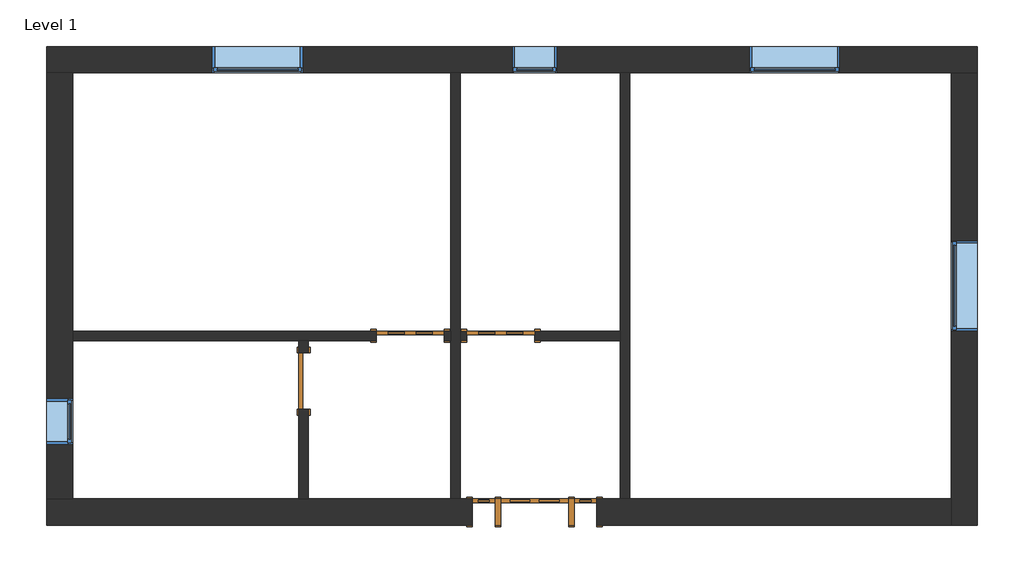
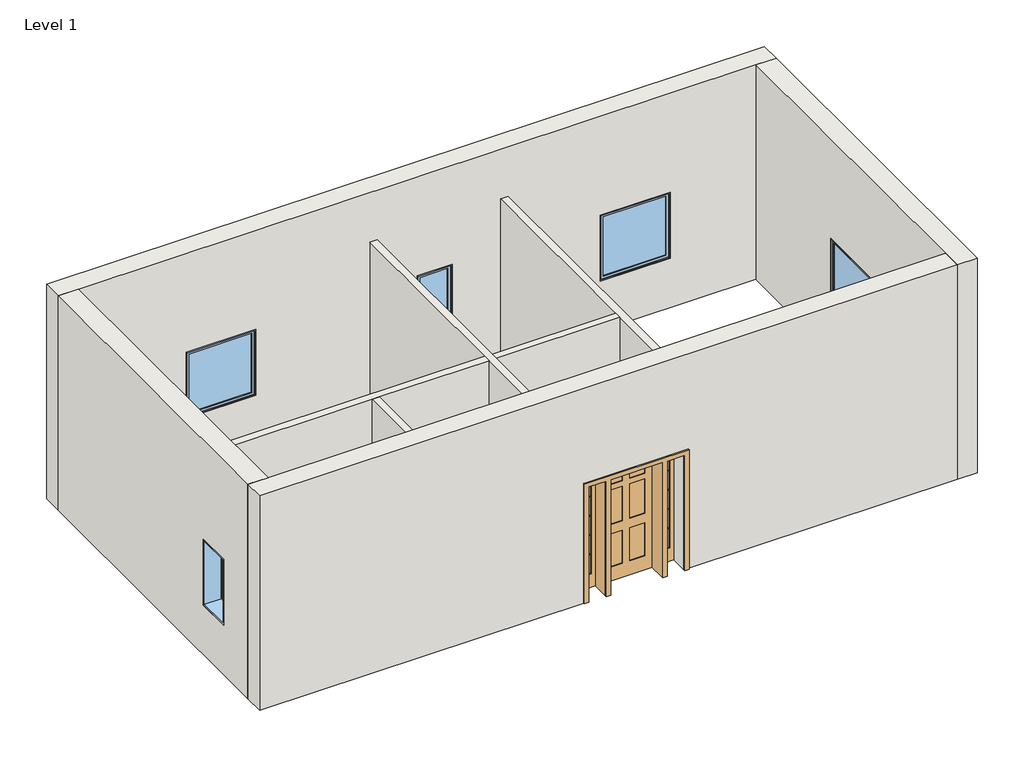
# One storey: 9 walls, 5 windows, 4 doors.
"""IFC4 building model written with IfcOpenShell, lengths in millimetres."""

import ifcopenshell
import ifcopenshell.guid

model = None  # the IFC model being written
_history = None  # IfcOwnerHistory: only IFC2X3 demands one
_inside = {}  # id of a spatial element -> (the spatial element, [elements in it])
_under = {}  # id of a project, library or spatial element -> (it, [spatial elements below it])
_declared = {}  # id of a project -> (the project, [libraries it declares])
_typed = {}  # id of a type object -> (the type object, [elements of that type])
_made_of = {}  # id of a material, layer set ... -> (it, [elements and type objects made of it])


def new_model(schema):
    """Start an empty IFC model of exactly this schema.

    Asked for "IFC4X3", IfcOpenShell would pick the latest addendum, in which some entities
    have other attributes; the version numbers below select the first issue.
    IFC2X3 requires an IfcOwnerHistory on every rooted entity: one is made here for all.
    """
    global model, _history
    if schema == "IFC4X3":
        model = ifcopenshell.file(schema_version=(4, 3, 0, 0))
    else:
        model = ifcopenshell.file(schema=schema)
    _inside.clear()
    _under.clear()
    _declared.clear()
    _typed.clear()
    _made_of.clear()
    _history = None
    if model.schema == "IFC2X3":
        org = make("IfcOrganization", Name="unknown")
        user = make(
            "IfcPersonAndOrganization",
            ThePerson=make("IfcPerson", FamilyName="unknown"),
            TheOrganization=org,
        )
        app = make(
            "IfcApplication",
            ApplicationDeveloper=org,
            Version="unknown",
            ApplicationFullName="unknown",
            ApplicationIdentifier="unknown",
        )
        _history = make(
            "IfcOwnerHistory",
            OwningUser=user,
            OwningApplication=app,
            ChangeAction="ADDED",
            CreationDate=0,
        )
    return model


def make(cls, **values):
    """One entity of the class cls with the attributes given. An attribute that is None is left unset."""
    return model.create_entity(
        cls, **{name: value for name, value in values.items() if value is not None}
    )


def rooted(cls, **values):
    """An entity with a GlobalId (a new one), such as an element, a storey or a relation."""
    return make(cls, GlobalId=ifcopenshell.guid.new(), OwnerHistory=_history, **values)


def si_unit(unit_type, name, prefix=None):
    """IfcSIUnit, for example si_unit("LENGTHUNIT", "METRE", prefix="MILLI")."""
    return make("IfcSIUnit", UnitType=unit_type, Prefix=prefix, Name=name)


def assignment(units):
    """IfcUnitAssignment: the units of a project."""
    return None if units is None else make("IfcUnitAssignment", Units=units)


def point(xyz):
    """IfcCartesianPoint."""
    return None if xyz is None else make("IfcCartesianPoint", Coordinates=xyz)


def direction(xyz):
    """IfcDirection."""
    return None if xyz is None else make("IfcDirection", DirectionRatios=xyz)


def frame(location, z_axis=None, x_axis=None):
    """IfcAxis2Placement3D, a coordinate frame: its origin and axes. An axis left out is left unset."""
    return make(
        "IfcAxis2Placement3D",
        Location=point(location),
        Axis=direction(z_axis),
        RefDirection=direction(x_axis),
    )


def frame_2d(location, x_axis=None):
    """IfcAxis2Placement2D, a coordinate frame in the plane: its origin and x axis."""
    return make(
        "IfcAxis2Placement2D", Location=point(location), RefDirection=direction(x_axis)
    )


def origin():
    """The frame at (0, 0, 0) with its axes left unset."""
    return frame((0.0, 0.0, 0.0))


def origin_with_axes():
    """The frame at (0, 0, 0) with the z axis (0, 0, 1) and the x axis (1, 0, 0) written out."""
    return frame((0.0, 0.0, 0.0), z_axis=(0.0, 0.0, 1.0), x_axis=(1.0, 0.0, 0.0))


def place(relative_to, where):
    """IfcLocalPlacement: puts the frame where relative to a parent placement (None: the world)."""
    return make(
        "IfcLocalPlacement", PlacementRelTo=relative_to, RelativePlacement=where
    )


def context(
    kind, dimensions, precision=None, world=None, true_north=None, identifier=None
):
    """IfcGeometricRepresentationContext, for example the 3D "Model" context."""
    return make(
        "IfcGeometricRepresentationContext",
        ContextIdentifier=identifier,
        ContextType=kind,
        CoordinateSpaceDimension=dimensions,
        Precision=precision,
        WorldCoordinateSystem=world,
        TrueNorth=true_north,
    )


def project(units=None, contexts=None):
    """IfcProject with its units and contexts."""
    return rooted(
        "IfcProject",
        Name="project",
        RepresentationContexts=contexts,
        UnitsInContext=assignment(units),
    )


def spatial(cls, under=None, at=None, **own):
    """A site, building, storey or space (cls), placed at a placement, below another one or the project."""
    s = rooted(cls, ObjectPlacement=at, **own)
    if under is not None:
        _under.setdefault(under.id(), (under, []))[1].append(s)
    return s


def polyline(points):
    """IfcPolyline through the points."""
    return make("IfcPolyline", Points=[point(p) for p in points])


def circle_curve(where, radius):
    """IfcCircle in the frame where."""
    return make("IfcCircle", Position=where, Radius=radius)


def trimmed(basis, trim1, trim2, sense, master):
    """IfcTrimmedCurve: the piece of a basis curve between two trims."""
    return make(
        "IfcTrimmedCurve",
        BasisCurve=basis,
        Trim1=trim1,
        Trim2=trim2,
        SenseAgreement=sense,
        MasterRepresentation=master,
    )


def segment(curve, same_sense, transition):
    """IfcCompositeCurveSegment."""
    return make(
        "IfcCompositeCurveSegment",
        Transition=transition,
        SameSense=same_sense,
        ParentCurve=curve,
    )


def composite_curve(segments, self_intersect=None):
    """IfcCompositeCurve: segments joined end to end."""
    return make("IfcCompositeCurve", Segments=segments, SelfIntersect=self_intersect)


def outline(outer, holes=None, kind="AREA"):
    """IfcArbitraryClosedProfileDef: a profile drawn as a closed curve; with holes, ...WithVoids."""
    if holes is None:
        return make("IfcArbitraryClosedProfileDef", ProfileType=kind, OuterCurve=outer)
    return make(
        "IfcArbitraryProfileDefWithVoids",
        ProfileType=kind,
        OuterCurve=outer,
        InnerCurves=holes,
    )


def extrude(swept, where, along, depth):
    """IfcExtrudedAreaSolid: the profile swept, set in the frame where, extruded along a direction by depth."""
    return make(
        "IfcExtrudedAreaSolid",
        SweptArea=swept,
        Position=where,
        ExtrudedDirection=direction(along),
        Depth=depth,
    )


def faces_of(points, faces, orient=None, outer=None):
    """IfcFace entities. A face is a list of loops; a loop is a list of indices into points, from 0.

    orient and outer hold one flag for each loop. By default every Orientation is true, the
    first loop of a face is its IfcFaceOuterBound and the others are IfcFaceBound.
    """
    made = []
    for i, loops in enumerate(faces):
        bounds = []
        for j, loop in enumerate(loops):
            is_outer = j == 0 if outer is None else outer[i][j]
            bounds.append(
                make(
                    "IfcFaceOuterBound" if is_outer else "IfcFaceBound",
                    Bound=make("IfcPolyLoop", Polygon=[points[k] for k in loop]),
                    Orientation=True if orient is None else orient[i][j],
                )
            )
        made.append(make("IfcFace", Bounds=bounds))
    return made


def faceted_brep(points, faces, orient=None, outer=None, voids=None):
    """IfcFacetedBrep: a solid bounded by flat faces; with voids (closed shells), ...WithVoids."""
    shared = [point(p) for p in points]
    hull = make("IfcClosedShell", CfsFaces=faces_of(shared, faces, orient, outer))
    if voids is None:
        return make("IfcFacetedBrep", Outer=hull)
    return make(
        "IfcFacetedBrepWithVoids",
        Outer=hull,
        Voids=[
            make(cls, CfsFaces=faces_of(shared, fs, o, b)) for cls, fs, o, b in voids
        ],
    )


def shape(context_of_items, identifier, shape_type, items):
    """IfcShapeRepresentation: the items that make up one representation, for example the "Body"."""
    return make(
        "IfcShapeRepresentation",
        ContextOfItems=context_of_items,
        RepresentationIdentifier=identifier,
        RepresentationType=shape_type,
        Items=items,
    )


def source(mapping_origin, context_of_items, identifier, shape_type, items):
    """IfcRepresentationMap: a shape defined once, which mapped items show again and again."""
    return make(
        "IfcRepresentationMap",
        MappingOrigin=mapping_origin,
        MappedRepresentation=shape(context_of_items, identifier, shape_type, items),
    )


def transform(
    local_origin,
    x_axis=None,
    y_axis=None,
    z_axis=None,
    scale=None,
    scale2=None,
    scale3=None,
    uniform=True,
):
    """IfcCartesianTransformationOperator3D, or its non-uniform kind. x_axis, y_axis, z_axis: its Axis1, 2, 3."""
    if uniform:
        return make(
            "IfcCartesianTransformationOperator3D",
            Axis1=direction(x_axis),
            Axis2=direction(y_axis),
            LocalOrigin=point(local_origin),
            Scale=scale,
            Axis3=direction(z_axis),
        )
    return make(
        "IfcCartesianTransformationOperator3DnonUniform",
        Axis1=direction(x_axis),
        Axis2=direction(y_axis),
        LocalOrigin=point(local_origin),
        Scale=scale,
        Axis3=direction(z_axis),
        Scale2=scale2,
        Scale3=scale3,
    )


def mapped(mapping_source, mapping_target):
    """IfcMappedItem: shows the shape of a source again, moved by a transform."""
    return make(
        "IfcMappedItem", MappingSource=mapping_source, MappingTarget=mapping_target
    )


def made_of(thing, what):
    """Note that an element or type object is made of a material, layer set ...; save() writes the relation."""
    if what is not None:
        _made_of.setdefault(what.id(), (what, []))[1].append(thing)
    return thing


def element(
    cls,
    number,
    at=None,
    inside=None,
    cuts=None,
    type_object=None,
    material=None,
    context=None,
    identifier="Body",
    shape_type=None,
    held_by="IfcProductDefinitionShape",
    body=None,
    shapes=None,
    **own,
):
    """One element of the class cls, such as IfcWall. Its Tag is "e" and its number.

    at: its placement. inside: the storey or other place that contains it. cuts: it is an
    opening in that element (IfcRelVoidsElement). A single representation is given by context,
    identifier, shape_type and body (its items); several are given by shapes. held_by: the class
    of the entity that holds the representations. save() writes the other relations.
    """
    e = rooted(cls, Tag="e%d" % number, ObjectPlacement=at, **own)
    if body is not None:
        shapes = [shape(context, identifier, shape_type, body)]
    if shapes is not None:
        e.Representation = make(held_by, Representations=shapes)
    if inside is not None:
        _inside.setdefault(inside.id(), (inside, []))[1].append(e)
    if cuts is not None:
        rooted(
            "IfcRelVoidsElement", RelatingBuildingElement=cuts, RelatedOpeningElement=e
        )
    if type_object is not None:
        _typed.setdefault(type_object.id(), (type_object, []))[1].append(e)
    return made_of(e, material)


def aggregate(whole, parts):
    """IfcRelAggregates: a whole, such as a stair, and the parts it consists of."""
    return rooted("IfcRelAggregates", RelatingObject=whole, RelatedObjects=parts)


def save(model, path):
    """Write the relations noted so far, then the file.

    IfcRelAggregates (storeys below a building ...), IfcRelContainedInSpatialStructure (elements
    in a storey), IfcRelDefinesByType, IfcRelAssociatesMaterial and IfcRelDeclares: one each for
    every whole, place, type object, material and project.
    """
    for whole, parts in _under.values():
        aggregate(whole, parts)
    for where, things in _inside.values():
        rooted(
            "IfcRelContainedInSpatialStructure",
            RelatedElements=things,
            RelatingStructure=where,
        )
    for kind, things in _typed.values():
        rooted("IfcRelDefinesByType", RelatedObjects=things, RelatingType=kind)
    for what, things in _made_of.values():
        rooted("IfcRelAssociatesMaterial", RelatedObjects=things, RelatingMaterial=what)
    for by, libraries in _declared.values():
        rooted("IfcRelDeclares", RelatingContext=by, RelatedDefinitions=libraries)
    model.write(path)


def door_829da954(model_context):
    return source(origin(), model_context, "Body", "SweptSolid", [
        extrude(outline(polyline([(0.0, -457.2), (0.0, 457.2), (2133.6, 457.2), (2133.6, -457.2), (0.0, -457.2)]), holes=[polyline([(254.0, -76.2), (254.0, -304.8), (1219.2, -304.8), (1219.2, -76.2), (254.0, -76.2)]), polyline([(254.0, 304.8), (254.0, 76.2), (1219.2, 76.2), (1219.2, 304.8), (254.0, 304.8)]), polyline([(1371.6, 76.2), (1574.8, 76.2), (1574.8, 304.8), (1371.6, 304.8), (1371.6, 76.2)]), polyline([(1371.6, -304.8), (1574.8, -304.8), (1574.8, -76.2), (1371.6, -76.2), (1371.6, -304.8)]), composite_curve([segment(polyline([(1727.2, 304.8), (1727.2, -304.8)]), True, "CONTINUOUS"), segment(trimmed(circle_curve(frame_2d((1727.2, 0.0)), 304.8), [point((1727.2, -304.8))], [point((1727.2, 304.8))], True, "CARTESIAN"), True, "CONTINUOUS")], self_intersect=False)]), frame((0.0, -63.5, 0.0), z_axis=(0.0, 1.0, 0.0), x_axis=(0.0, 0.0, 1.0)), (0.0, 0.0, 1.0), 50.8),
        extrude(outline(polyline([(0.0, 457.2), (0.0, 533.4), (2209.8, 533.4), (2209.8, -533.4), (0.0, -533.4), (0.0, -457.2), (2133.6, -457.2), (2133.6, 457.2), (0.0, 457.2)])), frame((0.0, 63.5, 0.0), z_axis=(0.0, 1.0, 0.0), x_axis=(0.0, 0.0, 1.0)), (0.0, 0.0, 1.0), 25.4),
        extrude(outline(polyline([(2209.8, -533.4), (0.0, -533.4), (0.0, -457.2), (2133.6, -457.2), (2133.6, 457.2), (0.0, 457.2), (0.0, 533.4), (2209.8, 533.4), (2209.8, -533.4)])), frame((0.0, -88.9, 0.0), z_axis=(0.0, 1.0, 0.0), x_axis=(0.0, 0.0, 1.0)), (0.0, 0.0, 1.0), 25.4),
        extrude(outline(composite_curve([segment(polyline([(1727.2, -304.8), (1727.2, 304.8)]), True, "CONTINUOUS"), segment(trimmed(circle_curve(frame_2d((1727.2, 0.0)), 304.8), [point((1727.2, 304.8))], [point((1727.2, -304.8))], False, "CARTESIAN"), True, "CONTINUOUS")], self_intersect=False)), frame((0.0, -46.5666667, 0.0), z_axis=(0.0, 1.0, 0.0), x_axis=(0.0, 0.0, 1.0)), (0.0, 0.0, 1.0), 16.9333333),
        extrude(outline(polyline([(-304.8, -46.5666667), (-304.8, -29.6333333), (-76.2, -29.6333333), (-76.2, -46.5666667), (-304.8, -46.5666667)])), frame((0.0, 0.0, 254.0), z_axis=(0.0, 0.0, 1.0), x_axis=(1.0, 0.0, 0.0)), (0.0, 0.0, 1.0), 965.2),
        extrude(outline(polyline([(76.2, -46.5666667), (76.2, -29.6333333), (304.8, -29.6333333), (304.8, -46.5666667), (76.2, -46.5666667)])), frame((0.0, 0.0, 254.0), z_axis=(0.0, 0.0, 1.0), x_axis=(1.0, 0.0, 0.0)), (0.0, 0.0, 1.0), 965.2),
        extrude(outline(polyline([(76.2, -46.5666667), (76.2, -29.6333333), (304.8, -29.6333333), (304.8, -46.5666667), (76.2, -46.5666667)])), frame((0.0, 0.0, 1371.6), z_axis=(0.0, 0.0, 1.0), x_axis=(1.0, 0.0, 0.0)), (0.0, 0.0, 1.0), 203.2),
        extrude(outline(polyline([(-304.8, -46.5666667), (-304.8, -29.6333333), (-76.2, -29.6333333), (-76.2, -46.5666667), (-304.8, -46.5666667)])), frame((0.0, 0.0, 1371.6), z_axis=(0.0, 0.0, 1.0), x_axis=(1.0, 0.0, 0.0)), (0.0, 0.0, 1.0), 203.2),
    ])


def door_2e3b4da2(model_context):
    return source(origin(), model_context, "Body", "SweptSolid", [
        extrude(outline(polyline([(0.0, -457.2), (0.0, 457.2), (2133.6, 457.2), (2133.6, -457.2), (0.0, -457.2)]), holes=[polyline([(254.0, -76.2), (254.0, -304.8), (1219.2, -304.8), (1219.2, -76.2), (254.0, -76.2)]), polyline([(254.0, 304.8), (254.0, 76.2), (1219.2, 76.2), (1219.2, 304.8), (254.0, 304.8)]), polyline([(1371.6, 76.2), (1574.8, 76.2), (1574.8, 304.8), (1371.6, 304.8), (1371.6, 76.2)]), polyline([(1371.6, -304.8), (1574.8, -304.8), (1574.8, -76.2), (1371.6, -76.2), (1371.6, -304.8)]), composite_curve([segment(polyline([(1727.2, 304.8), (1727.2, -304.8)]), True, "CONTINUOUS"), segment(trimmed(circle_curve(frame_2d((1727.2, 0.0)), 304.8), [point((1727.2, -304.8))], [point((1727.2, 304.8))], True, "CARTESIAN"), True, "CONTINUOUS")], self_intersect=False)]), frame((0.0, 12.7, 0.0), z_axis=(0.0, 1.0, 0.0), x_axis=(0.0, 0.0, 1.0)), (0.0, 0.0, 1.0), 50.8),
        extrude(outline(polyline([(0.0, 457.2), (0.0, 533.4), (2209.8, 533.4), (2209.8, -533.4), (0.0, -533.4), (0.0, -457.2), (2133.6, -457.2), (2133.6, 457.2), (0.0, 457.2)])), frame((0.0, -88.9, 0.0), z_axis=(0.0, 1.0, 0.0), x_axis=(0.0, 0.0, 1.0)), (0.0, 0.0, 1.0), 25.4),
        extrude(outline(polyline([(2209.8, -533.4), (0.0, -533.4), (0.0, -457.2), (2133.6, -457.2), (2133.6, 457.2), (0.0, 457.2), (0.0, 533.4), (2209.8, 533.4), (2209.8, -533.4)])), frame((0.0, 63.5, 0.0), z_axis=(0.0, 1.0, 0.0), x_axis=(0.0, 0.0, 1.0)), (0.0, 0.0, 1.0), 25.4),
        extrude(outline(composite_curve([segment(polyline([(1727.2, -304.8), (1727.2, 304.8)]), True, "CONTINUOUS"), segment(trimmed(circle_curve(frame_2d((1727.2, 0.0)), 304.8), [point((1727.2, 304.8))], [point((1727.2, -304.8))], False, "CARTESIAN"), True, "CONTINUOUS")], self_intersect=False)), frame((0.0, 29.6333333, 0.0), z_axis=(0.0, 1.0, 0.0), x_axis=(0.0, 0.0, 1.0)), (0.0, 0.0, 1.0), 16.9333333),
        extrude(outline(polyline([(-304.8, 46.5666667), (-76.2, 46.5666667), (-76.2, 29.6333333), (-304.8, 29.6333333), (-304.8, 46.5666667)])), frame((0.0, 0.0, 254.0), z_axis=(0.0, 0.0, 1.0), x_axis=(1.0, 0.0, 0.0)), (0.0, 0.0, 1.0), 965.2),
        extrude(outline(polyline([(76.2, 46.5666667), (304.8, 46.5666667), (304.8, 29.6333333), (76.2, 29.6333333), (76.2, 46.5666667)])), frame((0.0, 0.0, 254.0), z_axis=(0.0, 0.0, 1.0), x_axis=(1.0, 0.0, 0.0)), (0.0, 0.0, 1.0), 965.2),
        extrude(outline(polyline([(76.2, 46.5666667), (304.8, 46.5666667), (304.8, 29.6333333), (76.2, 29.6333333), (76.2, 46.5666667)])), frame((0.0, 0.0, 1371.6), z_axis=(0.0, 0.0, 1.0), x_axis=(1.0, 0.0, 0.0)), (0.0, 0.0, 1.0), 203.2),
        extrude(outline(polyline([(-304.8, 46.5666667), (-76.2, 46.5666667), (-76.2, 29.6333333), (-304.8, 29.6333333), (-304.8, 46.5666667)])), frame((0.0, 0.0, 1371.6), z_axis=(0.0, 0.0, 1.0), x_axis=(1.0, 0.0, 0.0)), (0.0, 0.0, 1.0), 203.2),
    ])


def door_4d6c7550(model_context):
    return source(origin(), model_context, "Body", "SweptSolid", [
        extrude(outline(polyline([(2209.8, -457.2), (0.0, -457.2), (0.0, -381.0), (2133.6, -381.0), (2133.6, 381.0), (0.0, 381.0), (0.0, 457.2), (2209.8, 457.2), (2209.8, -457.2)])), frame((0.0, 63.5, 0.0), z_axis=(0.0, 1.0, 0.0), x_axis=(0.0, 0.0, 1.0)), (0.0, 0.0, 1.0), 25.4),
        extrude(outline(polyline([(2209.8, 457.2), (2209.8, -457.2), (0.0, -457.2), (0.0, -381.0), (2133.6, -381.0), (2133.6, 381.0), (0.0, 381.0), (0.0, 457.2), (2209.8, 457.2)])), frame((0.0, -88.9, 0.0), z_axis=(0.0, 1.0, 0.0), x_axis=(0.0, 0.0, 1.0)), (0.0, 0.0, 1.0), 25.4),
        extrude(outline(polyline([(381.0, 12.7), (-381.0, 12.7), (-381.0, 63.5), (381.0, 63.5), (381.0, 12.7)])), origin_with_axes(), (0.0, 0.0, 1.0), 2133.6),
    ])


def door_dba5aa2e(model_context):
    return source(origin(), model_context, "Body", "SweptSolid", [
        extrude(outline(polyline([(762.0, -134.9375), (762.0, -166.6875), (609.6, -166.6875), (609.6, -134.9375), (762.0, -134.9375)])), frame((0.0, 0.0, 600.075), z_axis=(0.0, 0.0, 1.0), x_axis=(1.0, 0.0, 0.0)), (0.0, 0.0, 1.0), 19.05),
        extrude(outline(polyline([(762.0, -134.9375), (762.0, -166.6875), (609.6, -166.6875), (609.6, -134.9375), (762.0, -134.9375)])), frame((0.0, 0.0, 955.675), z_axis=(0.0, 0.0, 1.0), x_axis=(1.0, 0.0, 0.0)), (0.0, 0.0, 1.0), 19.05),
        extrude(outline(polyline([(762.0, -134.9375), (762.0, -166.6875), (609.6, -166.6875), (609.6, -134.9375), (762.0, -134.9375)])), frame((0.0, 0.0, 1311.275), z_axis=(0.0, 0.0, 1.0), x_axis=(1.0, 0.0, 0.0)), (0.0, 0.0, 1.0), 19.05),
        extrude(outline(polyline([(762.0, -134.9375), (762.0, -166.6875), (609.6, -166.6875), (609.6, -134.9375), (762.0, -134.9375)])), frame((0.0, 0.0, 1666.875), z_axis=(0.0, 0.0, 1.0), x_axis=(1.0, 0.0, 0.0)), (0.0, 0.0, 1.0), 19.05),
        extrude(outline(polyline([(-609.6, -134.9375), (-609.6, -166.6875), (-762.0, -166.6875), (-762.0, -134.9375), (-609.6, -134.9375)])), frame((0.0, 0.0, 1666.875), z_axis=(0.0, 0.0, 1.0), x_axis=(1.0, 0.0, 0.0)), (0.0, 0.0, 1.0), 19.05),
        extrude(outline(polyline([(-609.6, -134.9375), (-609.6, -166.6875), (-762.0, -166.6875), (-762.0, -134.9375), (-609.6, -134.9375)])), frame((0.0, 0.0, 1311.275), z_axis=(0.0, 0.0, 1.0), x_axis=(1.0, 0.0, 0.0)), (0.0, 0.0, 1.0), 19.05),
        extrude(outline(polyline([(-609.6, -134.9375), (-609.6, -166.6875), (-762.0, -166.6875), (-762.0, -134.9375), (-609.6, -134.9375)])), frame((0.0, 0.0, 955.675), z_axis=(0.0, 0.0, 1.0), x_axis=(1.0, 0.0, 0.0)), (0.0, 0.0, 1.0), 19.05),
        extrude(outline(polyline([(-609.6, -134.9375), (-609.6, -166.6875), (-762.0, -166.6875), (-762.0, -134.9375), (-609.6, -134.9375)])), frame((0.0, 0.0, 600.075), z_axis=(0.0, 0.0, 1.0), x_axis=(1.0, 0.0, 0.0)), (0.0, 0.0, 1.0), 19.05),
        extrude(outline(polyline([(762.0, -141.2875), (762.0, -160.3375), (609.6, -160.3375), (609.6, -141.2875), (762.0, -141.2875)])), frame((0.0, 0.0, 254.0), z_axis=(0.0, 0.0, 1.0), x_axis=(1.0, 0.0, 0.0)), (0.0, 0.0, 1.0), 1778.0),
        extrude(outline(polyline([(-609.6, -141.2875), (-609.6, -160.3375), (-762.0, -160.3375), (-762.0, -141.2875), (-609.6, -141.2875)])), frame((0.0, 0.0, 254.0), z_axis=(0.0, 0.0, 1.0), x_axis=(1.0, 0.0, 0.0)), (0.0, 0.0, 1.0), 1778.0),
        extrude(outline(polyline([(-457.2, 176.2125), (-457.2, -176.2125), (-533.4, -176.2125), (-533.4, 176.2125), (-457.2, 176.2125)])), origin_with_axes(), (0.0, 0.0, 1.0), 2133.6),
        extrude(outline(polyline([(533.4, 176.2125), (533.4, -176.2125), (457.2, -176.2125), (457.2, 176.2125), (533.4, 176.2125)])), origin_with_axes(), (0.0, 0.0, 1.0), 2133.6),
        extrude(outline(polyline([(2133.6, -533.4), (2133.6, -838.2), (0.0, -838.2), (0.0, -533.4), (2133.6, -533.4)]), holes=[polyline([(2032.0, -609.6), (254.0, -609.6), (254.0, -762.0), (2032.0, -762.0), (2032.0, -609.6)])]), frame((0.0, -176.2125, 0.0), z_axis=(0.0, 1.0, 0.0), x_axis=(0.0, 0.0, 1.0)), (0.0, 0.0, 1.0), 50.8),
        extrude(outline(polyline([(0.0, 533.4), (0.0, 838.2), (2133.6, 838.2), (2133.6, 533.4), (0.0, 533.4)]), holes=[polyline([(2032.0, 762.0), (254.0, 762.0), (254.0, 609.6), (2032.0, 609.6), (2032.0, 762.0)])]), frame((0.0, -176.2125, 0.0), z_axis=(0.0, 1.0, 0.0), x_axis=(0.0, 0.0, 1.0)), (0.0, 0.0, 1.0), 50.8),
        extrude(outline(polyline([(0.0, -914.4), (0.0, -838.2), (2133.6, -838.2), (2133.6, -533.4), (0.0, -533.4), (0.0, -457.2), (2133.6, -457.2), (2133.6, 457.2), (0.0, 457.2), (0.0, 533.4), (2133.6, 533.4), (2133.6, 838.2), (0.0, 838.2), (0.0, 914.4), (2209.8, 914.4), (2209.8, -914.4), (0.0, -914.4)])), frame((0.0, 176.2125, 0.0), z_axis=(0.0, 1.0, 0.0), x_axis=(0.0, 0.0, 1.0)), (0.0, 0.0, 1.0), 25.4),
        extrude(outline(polyline([(0.0, 914.4), (2209.8, 914.4), (2209.8, -914.4), (0.0, -914.4), (0.0, -838.2), (2133.6, -838.2), (2133.6, -533.4), (0.0, -533.4), (0.0, -457.2), (2133.6, -457.2), (2133.6, 457.2), (0.0, 457.2), (0.0, 533.4), (2133.6, 533.4), (2133.6, 838.2), (0.0, 838.2), (0.0, 914.4)])), frame((0.0, -201.6125, 0.0), z_axis=(0.0, 1.0, 0.0), x_axis=(0.0, 0.0, 1.0)), (0.0, 0.0, 1.0), 25.4),
        extrude(outline(polyline([(-63.5, -138.1125), (-63.5, -163.5125), (-330.2, -163.5125), (-330.2, -138.1125), (-63.5, -138.1125)])), frame((0.0, 0.0, 1778.0), z_axis=(0.0, 0.0, 1.0), x_axis=(1.0, 0.0, 0.0)), (0.0, 0.0, 1.0), 254.0),
        extrude(outline(polyline([(330.2, -138.1125), (330.2, -163.5125), (63.5, -163.5125), (63.5, -138.1125), (330.2, -138.1125)])), frame((0.0, 0.0, 1778.0), z_axis=(0.0, 0.0, 1.0), x_axis=(1.0, 0.0, 0.0)), (0.0, 0.0, 1.0), 254.0),
        extrude(outline(polyline([(-63.5, -138.1125), (-63.5, -163.5125), (-330.2, -163.5125), (-330.2, -138.1125), (-63.5, -138.1125)])), frame((0.0, 0.0, 1041.4), z_axis=(0.0, 0.0, 1.0), x_axis=(1.0, 0.0, 0.0)), (0.0, 0.0, 1.0), 635.0),
        extrude(outline(polyline([(330.2, -138.1125), (330.2, -163.5125), (63.5, -163.5125), (63.5, -138.1125), (330.2, -138.1125)])), frame((0.0, 0.0, 1041.4), z_axis=(0.0, 0.0, 1.0), x_axis=(1.0, 0.0, 0.0)), (0.0, 0.0, 1.0), 635.0),
        extrude(outline(polyline([(-63.5, -138.1125), (-63.5, -163.5125), (-330.2, -163.5125), (-330.2, -138.1125), (-63.5, -138.1125)])), frame((0.0, 0.0, 254.0), z_axis=(0.0, 0.0, 1.0), x_axis=(1.0, 0.0, 0.0)), (0.0, 0.0, 1.0), 609.6),
        extrude(outline(polyline([(330.2, -138.1125), (330.2, -163.5125), (63.5, -163.5125), (63.5, -138.1125), (330.2, -138.1125)])), frame((0.0, 0.0, 254.0), z_axis=(0.0, 0.0, 1.0), x_axis=(1.0, 0.0, 0.0)), (0.0, 0.0, 1.0), 609.6),
        extrude(outline(polyline([(2133.6, 457.2), (2133.6, -457.2), (0.0, -457.2), (0.0, 457.2), (2133.6, 457.2)]), holes=[polyline([(2032.0, -63.5), (1778.0, -63.5), (1778.0, -330.2), (2032.0, -330.2), (2032.0, -63.5)]), polyline([(2032.0, 330.2), (1778.0, 330.2), (1778.0, 63.5), (2032.0, 63.5), (2032.0, 330.2)]), polyline([(1676.4, -63.5), (1041.4, -63.5), (1041.4, -330.2), (1676.4, -330.2), (1676.4, -63.5)]), polyline([(1676.4, 330.2), (1041.4, 330.2), (1041.4, 63.5), (1676.4, 63.5), (1676.4, 330.2)]), polyline([(863.6, -63.5), (254.0, -63.5), (254.0, -330.2), (863.6, -330.2), (863.6, -63.5)]), polyline([(863.6, 330.2), (254.0, 330.2), (254.0, 63.5), (863.6, 63.5), (863.6, 330.2)])]), frame((0.0, -176.2125, 0.0), z_axis=(0.0, 1.0, 0.0), x_axis=(0.0, 0.0, 1.0)), (0.0, 0.0, 1.0), 50.8),
    ])


def window_60baf983(model_context):
    return source(origin(), model_context, "Body", "SweptSolid", [
        extrude(outline(polyline([(203.2, 128.5875), (-279.4, 128.5875), (-279.4, 141.2875), (203.2, 141.2875), (203.2, 128.5875)])), frame((0.0, 0.0, 977.9), z_axis=(0.0, 0.0, 1.0), x_axis=(1.0, 0.0, 0.0)), (0.0, 0.0, 1.0), 1092.2),
        extrude(outline(polyline([(2114.55, -323.85), (933.45, -323.85), (933.45, 247.65), (2114.55, 247.65), (2114.55, -323.85)]), holes=[polyline([(2070.1, -279.4), (2070.1, 203.2), (977.9, 203.2), (977.9, -279.4), (2070.1, -279.4)])]), frame((0.0, 112.7125, 0.0), z_axis=(0.0, 1.0, 0.0), x_axis=(0.0, 0.0, 1.0)), (0.0, 0.0, 1.0), 44.45),
        extrude(outline(polyline([(2133.6, -342.9), (914.4, -342.9), (914.4, 266.7), (2133.6, 266.7), (2133.6, -342.9)]), holes=[polyline([(2101.85, -311.15), (2101.85, 234.95), (946.15, 234.95), (946.15, -311.15), (2101.85, -311.15)])]), frame((0.0, -176.2125, 0.0), z_axis=(0.0, 1.0, 0.0), x_axis=(0.0, 0.0, 1.0)), (0.0, 0.0, 1.0), 288.925),
        extrude(outline(polyline([(2133.6, 266.7), (2133.6, -342.9), (914.4, -342.9), (914.4, 266.7), (2133.6, 266.7)]), holes=[polyline([(2114.55, 247.65), (933.45, 247.65), (933.45, -323.85), (2114.55, -323.85), (2114.55, 247.65)])]), frame((0.0, 112.7125, 0.0), z_axis=(0.0, 1.0, 0.0), x_axis=(0.0, 0.0, 1.0)), (0.0, 0.0, 1.0), 63.5),
    ])


def window_6eb97611(model_context):
    return source(origin(), model_context, "Body", "SweptSolid", [
        extrude(outline(polyline([(508.0, 128.5875), (-584.2, 128.5875), (-584.2, 141.2875), (508.0, 141.2875), (508.0, 128.5875)])), frame((0.0, 0.0, 977.9), z_axis=(0.0, 0.0, 1.0), x_axis=(1.0, 0.0, 0.0)), (0.0, 0.0, 1.0), 1092.2),
        extrude(outline(polyline([(2114.55, -628.65), (933.45, -628.65), (933.45, 552.45), (2114.55, 552.45), (2114.55, -628.65)]), holes=[polyline([(2070.1, -584.2), (2070.1, 508.0), (977.9, 508.0), (977.9, -584.2), (2070.1, -584.2)])]), frame((0.0, 112.7125, 0.0), z_axis=(0.0, 1.0, 0.0), x_axis=(0.0, 0.0, 1.0)), (0.0, 0.0, 1.0), 44.45),
        extrude(outline(polyline([(2133.6, -647.7), (914.4, -647.7), (914.4, 571.5), (2133.6, 571.5), (2133.6, -647.7)]), holes=[polyline([(2101.85, -615.95), (2101.85, 539.75), (946.15, 539.75), (946.15, -615.95), (2101.85, -615.95)])]), frame((0.0, -176.2125, 0.0), z_axis=(0.0, 1.0, 0.0), x_axis=(0.0, 0.0, 1.0)), (0.0, 0.0, 1.0), 288.925),
        extrude(outline(polyline([(2133.6, 571.5), (2133.6, -647.7), (914.4, -647.7), (914.4, 571.5), (2133.6, 571.5)]), holes=[polyline([(2114.55, 552.45), (933.45, 552.45), (933.45, -628.65), (2114.55, -628.65), (2114.55, 552.45)])]), frame((0.0, 112.7125, 0.0), z_axis=(0.0, 1.0, 0.0), x_axis=(0.0, 0.0, 1.0)), (0.0, 0.0, 1.0), 63.5),
    ])


model = new_model("IFC4")

# Units and contexts
model_context = context("Model", 3, world=origin())
ifc_project = project(units=[si_unit("LENGTHUNIT", "METRE", prefix="MILLI")], contexts=[model_context])

# Site, building, storey
site = spatial("IfcSite", under=ifc_project)
building = spatial("IfcBuilding", under=site)
storey = spatial("IfcBuildingStorey", under=building, Name="Level 1", Elevation=0.0)

# Doors
placement = place(None, origin())
door_shape = door_829da954(model_context)
element("IfcDoor", 1, ObjectType="Single-Decorative 2 : 36\" x 84\"", at=placement, inside=storey, context=model_context, shape_type="MappedRepresentation", body=[
    mapped(door_shape, transform((-5449.8589563, 6723.5441867, 0.0), x_axis=(-1.0, 0.0, 0.0), y_axis=(0.0, -1.0, 0.0), z_axis=(0.0, 0.0, 1.0))),
])
door_2_shape = door_2e3b4da2(model_context)
element("IfcDoor", 2, ObjectType="Single-Decorative 2 : 36\" x 84\"", at=placement, inside=storey, context=model_context, shape_type="MappedRepresentation", body=[
    mapped(door_2_shape, transform((-6669.0589563, 6723.5441867, 0.0), x_axis=(1.0, 0.0, 0.0), y_axis=(0.0, 1.0, 0.0), z_axis=(0.0, 0.0, 1.0))),
])
door_3_shape = door_4d6c7550(model_context)
element("IfcDoor", 3, ObjectType="Single-Flush : 30\" x 84\"", at=placement, inside=storey, context=model_context, shape_type="MappedRepresentation", body=[
    mapped(door_3_shape, transform((-8105.7464563, 6113.9441867, 0.0), x_axis=(0.0, 1.0, 0.0), y_axis=(-1.0, 0.0, 0.0), z_axis=(0.0, 0.0, 1.0))),
])
door_4_shape = door_dba5aa2e(model_context)
element("IfcDoor", 4, ObjectType="Single-Raised Panel with Sidelights : 36\" x 84\"", at=placement, inside=storey, context=model_context, shape_type="MappedRepresentation", body=[
    mapped(door_4_shape, transform((-4992.6589563, 4350.2316867, 0.0), x_axis=(-1.0, 0.0, 0.0), y_axis=(0.0, -1.0, 0.0), z_axis=(0.0, 0.0, 1.0))),
])

# Walls
element("IfcWall", 5, ObjectType="Exterior - Brick on Mtl. Stud", at=placement, inside=storey, context=model_context, shape_type="Brep", body=[
    faceted_brep([(974.7535437, 10270.0191867, 0.0), (622.3285437, 10270.0191867, 0.0), (-3709.9589563, 10270.0191867, 0.0), (-3836.9589563, 10270.0191867, 0.0), (-5995.9589563, 10270.0191867, 0.0), (-6122.9589563, 10270.0191867, 0.0), (-11217.2464563, 10270.0191867, 0.0), (-11569.6714563, 10270.0191867, 0.0), (-11569.6714563, 10622.4441867, 0.0), (974.7535437, 10622.4441867, 0.0), (-11569.6714563, 10270.0191867, 3962.4), (-11217.2464563, 10270.0191867, 3962.4), (622.3285437, 10270.0191867, 3962.4), (974.7535437, 10270.0191867, 3962.4), (974.7535437, 10622.4441867, 3962.4), (-11569.6714563, 10622.4441867, 3962.4), (-5297.4589563, 10270.0191867, 2133.6), (-4687.8589563, 10270.0191867, 2133.6), (-4687.8589563, 10270.0191867, 914.4), (-5297.4589563, 10270.0191867, 914.4), (-9336.0589563, 10270.0191867, 2133.6), (-8116.8589563, 10270.0191867, 2133.6), (-8116.8589563, 10270.0191867, 914.4), (-9336.0589563, 10270.0191867, 914.4), (-2097.0589563, 10270.0191867, 2133.6), (-877.8589563, 10270.0191867, 2133.6), (-877.8589563, 10270.0191867, 914.4), (-2097.0589563, 10270.0191867, 914.4), (-5297.4589563, 10622.4441867, 2133.6), (-5297.4589563, 10622.4441867, 914.4), (-4687.8589563, 10622.4441867, 914.4), (-4687.8589563, 10622.4441867, 2133.6), (-9336.0589563, 10622.4441867, 2133.6), (-9336.0589563, 10622.4441867, 914.4), (-8116.8589563, 10622.4441867, 914.4), (-8116.8589563, 10622.4441867, 2133.6), (-2097.0589563, 10622.4441867, 2133.6), (-2097.0589563, 10622.4441867, 914.4), (-877.8589563, 10622.4441867, 914.4), (-877.8589563, 10622.4441867, 2133.6)], [[[0, 1, 2, 3, 4, 5, 6, 7, 8, 9]], [[10, 11, 12, 13, 14, 15]], [[7, 6, 5, 4, 3, 2, 1, 0, 13, 12, 11, 10], [16, 17, 18, 19], [20, 21, 22, 23], [24, 25, 26, 27]], [[8, 15, 14, 9], [28, 29, 30, 31], [32, 33, 34, 35], [36, 37, 38, 39]], [[13, 0, 9, 14]], [[7, 10, 15, 8]], [[29, 28, 16, 19]], [[30, 29, 19, 18]], [[31, 30, 18, 17]], [[28, 31, 17, 16]], [[33, 32, 20, 23]], [[34, 33, 23, 22]], [[35, 34, 22, 21]], [[32, 35, 21, 20]], [[37, 36, 24, 27]], [[38, 37, 27, 26]], [[39, 38, 26, 25]], [[36, 39, 25, 24]]]),
])
element("IfcWall", 6, ObjectType="Exterior - Brick on Mtl. Stud", at=placement, inside=storey, context=model_context, shape_type="Brep", body=[
    faceted_brep([(622.3285437, 10270.0191867, 0.0), (622.3285437, 4526.4441867, 0.0), (622.3285437, 4174.0191867, 0.0), (622.3285437, 4174.0191867, 3962.4), (622.3285437, 4526.4441867, 3962.4), (622.3285437, 10270.0191867, 3962.4), (622.3285437, 8007.8316867, 2133.6), (622.3285437, 6788.6316867, 2133.6), (622.3285437, 6788.6316867, 914.4), (622.3285437, 8007.8316867, 914.4), (974.7535437, 10270.0191867, 0.0), (974.7535437, 10270.0191867, 3962.4), (974.7535437, 4174.0191867, 3962.4), (974.7535437, 4174.0191867, 0.0), (974.7535437, 8007.8316867, 2133.6), (974.7535437, 8007.8316867, 914.4), (974.7535437, 6788.6316867, 914.4), (974.7535437, 6788.6316867, 2133.6)], [[[0, 1, 2, 3, 4, 5], [6, 7, 8, 9]], [[10, 11, 12, 13], [14, 15, 16, 17]], [[2, 1, 0, 10, 13]], [[5, 4, 3, 12, 11]], [[3, 2, 13, 12]], [[0, 5, 11, 10]], [[15, 14, 6, 9]], [[16, 15, 9, 8]], [[17, 16, 8, 7]], [[14, 17, 7, 6]]]),
])
element("IfcWall", 7, ObjectType="Exterior - Brick on Mtl. Stud", at=placement, inside=storey, context=model_context, shape_type="Brep", body=[
    faceted_brep([(-5830.8589563, 4526.4441867, 2133.6), (-5830.8589563, 4526.4441867, 0.0), (-5995.9589563, 4526.4441867, 0.0), (-6122.9589563, 4526.4441867, 0.0), (-8042.2464563, 4526.4441867, 0.0), (-8169.2464563, 4526.4441867, 0.0), (-11217.2464563, 4526.4441867, 0.0), (-11569.6714563, 4526.4441867, 0.0), (-11569.6714563, 4526.4441867, 3962.4), (-11217.2464563, 4526.4441867, 3962.4), (622.3285437, 4526.4441867, 3962.4), (622.3285437, 4526.4441867, 0.0), (-3709.9589563, 4526.4441867, 0.0), (-3836.9589563, 4526.4441867, 0.0), (-4154.4589563, 4526.4441867, 0.0), (-4154.4589563, 4526.4441867, 2133.6), (-11569.6714563, 4174.0191867, 0.0), (-5830.8589563, 4174.0191867, 0.0), (-5830.8589563, 4174.0191867, 2133.6), (-4154.4589563, 4174.0191867, 2133.6), (-4154.4589563, 4174.0191867, 0.0), (622.3285437, 4174.0191867, 0.0), (622.3285437, 4174.0191867, 3962.4), (-11569.6714563, 4174.0191867, 3962.4)], [[[0, 1, 2, 3, 4, 5, 6, 7, 8, 9, 10, 11, 12, 13, 14, 15]], [[16, 17, 18, 19, 20, 21, 22, 23]], [[7, 6, 5, 4, 3, 2, 1, 17, 16]], [[14, 13, 12, 11, 21, 20]], [[10, 9, 8, 23, 22]], [[8, 7, 16, 23]], [[11, 10, 22, 21]], [[18, 17, 1, 0]], [[19, 18, 0, 15]], [[20, 19, 15, 14]]]),
])
element("IfcWall", 8, ObjectType="Exterior - Brick on Mtl. Stud", at=placement, inside=storey, context=model_context, shape_type="Brep", body=[
    faceted_brep([(-11217.2464563, 4526.4441867, 0.0), (-11217.2464563, 6660.0441867, 0.0), (-11217.2464563, 6787.0441867, 0.0), (-11217.2464563, 10270.0191867, 0.0), (-11217.2464563, 10270.0191867, 3962.4), (-11217.2464563, 4526.4441867, 3962.4), (-11217.2464563, 5264.6316867, 2133.6), (-11217.2464563, 5874.2316867, 2133.6), (-11217.2464563, 5874.2316867, 914.4), (-11217.2464563, 5264.6316867, 914.4), (-11569.6714563, 4526.4441867, 0.0), (-11569.6714563, 4526.4441867, 3962.4), (-11569.6714563, 10270.0191867, 3962.4), (-11569.6714563, 10270.0191867, 0.0), (-11569.6714563, 5264.6316867, 2133.6), (-11569.6714563, 5264.6316867, 914.4), (-11569.6714563, 5874.2316867, 914.4), (-11569.6714563, 5874.2316867, 2133.6)], [[[0, 1, 2, 3, 4, 5], [6, 7, 8, 9]], [[10, 11, 12, 13], [14, 15, 16, 17]], [[3, 2, 1, 0, 10, 13]], [[5, 4, 12, 11]], [[0, 5, 11, 10]], [[4, 3, 13, 12]], [[15, 14, 6, 9]], [[16, 15, 9, 8]], [[17, 16, 8, 7]], [[14, 17, 7, 6]]]),
])
element("IfcWall", 9, ObjectType="Interior - 5\" Partition (2-hr)", at=placement, inside=storey, context=model_context, shape_type="Brep", body=[
    faceted_brep([(-3836.9589563, 10270.0191867, 0.0), (-3836.9589563, 6787.0441867, 0.0), (-3836.9589563, 6660.0441867, 0.0), (-3836.9589563, 4526.4441867, 0.0), (-3836.9589563, 4526.4441867, 3048.0), (-3836.9589563, 6660.0441867, 3048.0), (-3836.9589563, 6787.0441867, 3048.0), (-3836.9589563, 10270.0191867, 3048.0), (-3709.9589563, 10270.0191867, 0.0), (-3709.9589563, 10270.0191867, 3048.0), (-3709.9589563, 4526.4441867, 3048.0), (-3709.9589563, 4526.4441867, 0.0)], [[[0, 1, 2, 3, 4, 5, 6, 7]], [[8, 9, 10, 11]], [[3, 2, 1, 0, 8, 11]], [[7, 6, 5, 4, 10, 9]], [[0, 7, 9, 8]], [[4, 3, 11, 10]]]),
])
element("IfcWall", 10, ObjectType="Interior - 5\" Partition (2-hr)", at=placement, inside=storey, context=model_context, shape_type="Brep", body=[
    faceted_brep([(-6122.9589563, 10270.0191867, 0.0), (-6122.9589563, 6787.0441867, 0.0), (-6122.9589563, 6660.0441867, 0.0), (-6122.9589563, 4526.4441867, 0.0), (-6122.9589563, 4526.4441867, 3048.0), (-6122.9589563, 6660.0441867, 3048.0), (-6122.9589563, 6787.0441867, 3048.0), (-6122.9589563, 10270.0191867, 3048.0), (-5995.9589563, 10270.0191867, 0.0), (-5995.9589563, 10270.0191867, 3048.0), (-5995.9589563, 6787.0441867, 3048.0), (-5995.9589563, 6660.0441867, 3048.0), (-5995.9589563, 4526.4441867, 3048.0), (-5995.9589563, 4526.4441867, 0.0), (-5995.9589563, 6660.0441867, 0.0), (-5995.9589563, 6787.0441867, 0.0)], [[[0, 1, 2, 3, 4, 5, 6, 7]], [[8, 9, 10, 11, 12, 13, 14, 15]], [[3, 2, 1, 0, 8, 15, 14, 13]], [[7, 6, 5, 4, 12, 11, 10, 9]], [[0, 7, 9, 8]], [[4, 3, 13, 12]]]),
])
element("IfcWall", 11, ObjectType="Interior - 5\" Partition (2-hr)", at=placement, inside=storey, context=model_context, shape_type="Brep", body=[
    faceted_brep([(-6211.8589563, 6660.0441867, 2133.6), (-6211.8589563, 6660.0441867, 0.0), (-6122.9589563, 6660.0441867, 0.0), (-6122.9589563, 6660.0441867, 3048.0), (-8042.2464563, 6660.0441867, 3048.0), (-8169.2464563, 6660.0441867, 3048.0), (-11217.2464563, 6660.0441867, 3048.0), (-11217.2464563, 6660.0441867, 0.0), (-8169.2464563, 6660.0441867, 0.0), (-8042.2464563, 6660.0441867, 0.0), (-7126.2589563, 6660.0441867, 0.0), (-7126.2589563, 6660.0441867, 2133.6), (-6122.9589563, 6787.0441867, 0.0), (-6211.8589563, 6787.0441867, 0.0), (-6211.8589563, 6787.0441867, 2133.6), (-7126.2589563, 6787.0441867, 2133.6), (-7126.2589563, 6787.0441867, 0.0), (-11217.2464563, 6787.0441867, 0.0), (-11217.2464563, 6787.0441867, 3048.0), (-6122.9589563, 6787.0441867, 3048.0)], [[[0, 1, 2, 3, 4, 5, 6, 7, 8, 9, 10, 11]], [[12, 13, 14, 15, 16, 17, 18, 19]], [[2, 1, 13, 12]], [[10, 9, 8, 7, 17, 16]], [[6, 5, 4, 3, 19, 18]], [[7, 6, 18, 17]], [[3, 2, 12, 19]], [[14, 13, 1, 0]], [[15, 14, 0, 11]], [[16, 15, 11, 10]]]),
])
element("IfcWall", 12, ObjectType="Interior - 5\" Partition (2-hr)", at=placement, inside=storey, context=model_context, shape_type="SweptSolid", body=[
    extrude(outline(polyline([(6660.0441867, 0.0), (6494.9441867, 0.0), (6494.9441867, 2133.6), (5732.9441867, 2133.6), (5732.9441867, 0.0), (4526.4441867, 0.0), (4526.4441867, 3048.0), (6660.0441867, 3048.0), (6660.0441867, 0.0)])), frame((-8169.2464563, 0.0, 0.0), z_axis=(1.0, 0.0, 0.0), x_axis=(0.0, 1.0, 0.0)), (0.0, 0.0, 1.0), 127.0),
])
element("IfcWall", 13, ObjectType="Interior - 5\" Partition (2-hr)", at=placement, inside=storey, context=model_context, shape_type="SweptSolid", body=[
    extrude(outline(polyline([(0.0, -5995.9589563), (0.0, -5907.0589563), (2133.6, -5907.0589563), (2133.6, -4992.6589563), (0.0, -4992.6589563), (0.0, -3836.9589563), (3048.0, -3836.9589563), (3048.0, -5995.9589563), (0.0, -5995.9589563)])), frame((0.0, 6660.0441867, 0.0), z_axis=(0.0, 1.0, 0.0), x_axis=(0.0, 0.0, 1.0)), (0.0, 0.0, 1.0), 127.0),
])

# Windows
window_shape = window_60baf983(model_context)
element("IfcWindow", 14, ObjectType="Fixed : 24\" x 48\"", at=placement, inside=storey, context=model_context, shape_type="MappedRepresentation", body=[
    mapped(window_shape, transform((-5030.7589563, 10446.2316867, 0.0), x_axis=(-1.0, 0.0, 0.0), y_axis=(0.0, -1.0, 0.0), z_axis=(0.0, 0.0, 1.0))),
])
element("IfcWindow", 15, ObjectType="Fixed : 24\" x 48\"", at=placement, inside=storey, context=model_context, shape_type="MappedRepresentation", body=[
    mapped(window_shape, transform((-11393.4589563, 5531.3316867, 0.0), x_axis=(0.0, -1.0, 0.0), y_axis=(1.0, 0.0, 0.0), z_axis=(0.0, 0.0, 1.0))),
])
window_2_shape = window_6eb97611(model_context)
element("IfcWindow", 16, ObjectType="Fixed : 48\" x 48\"", at=placement, inside=storey, context=model_context, shape_type="MappedRepresentation", body=[
    mapped(window_2_shape, transform((-8764.5589563, 10446.2316867, 0.0), x_axis=(-1.0, 0.0, 0.0), y_axis=(0.0, -1.0, 0.0), z_axis=(0.0, 0.0, 1.0))),
])
element("IfcWindow", 17, ObjectType="Fixed : 48\" x 48\"", at=placement, inside=storey, context=model_context, shape_type="MappedRepresentation", body=[
    mapped(window_2_shape, transform((-1525.5589563, 10446.2316867, 0.0), x_axis=(-1.0, 0.0, 0.0), y_axis=(0.0, -1.0, 0.0), z_axis=(0.0, 0.0, 1.0))),
])
element("IfcWindow", 18, ObjectType="Fixed : 48\" x 48\"", at=placement, inside=storey, context=model_context, shape_type="MappedRepresentation", body=[
    mapped(window_2_shape, transform((798.5410437, 7436.3316867, 0.0), x_axis=(0.0, 1.0, 0.0), y_axis=(-1.0, 0.0, 0.0), z_axis=(0.0, 0.0, 1.0))),
])

save(model, "model.ifc")
